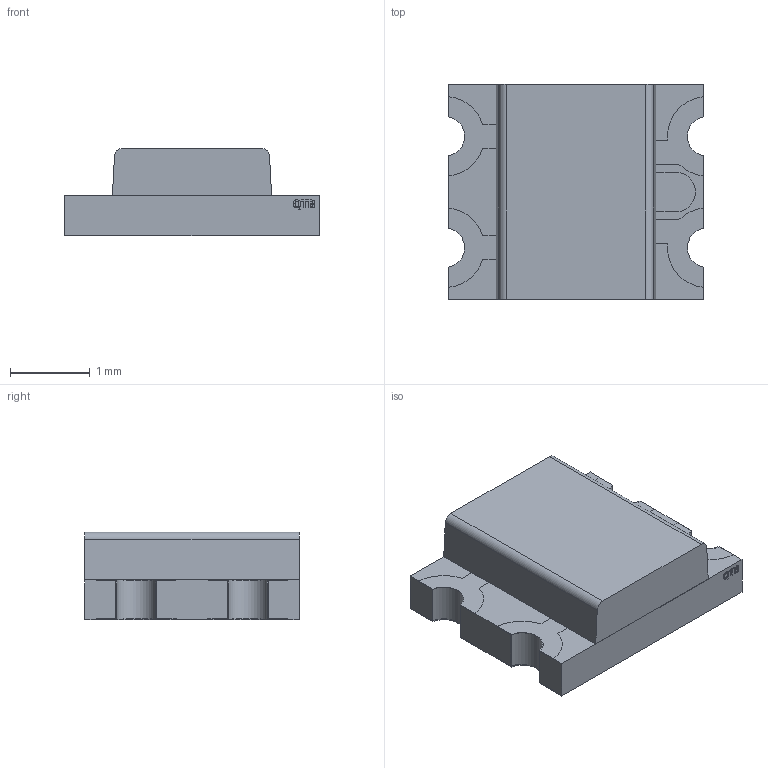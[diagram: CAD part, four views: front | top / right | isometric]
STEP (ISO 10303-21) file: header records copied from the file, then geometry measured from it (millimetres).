
FILE_DESCRIPTION(/* description */ (''),/* implementation_level */ '2;1');
FILE_NAME(/* name */ '5fab0ca4fb24ef1079061ac7',/* time_stamp */ '2020-11-10T21:56:52+00:00',/* author */ (''),/* organization */ (''),/* preprocessor_version */ 'ST-DEVELOPER v16.7',/* originating_system */ $,/* authorisation */ $);
FILE_SCHEMA (('AUTOMOTIVE_DESIGN {1 0 10303 214 3 1 1}'));
Length unit declared in the file: metre
Products named in the file (8): QBLP650 (Bi-Color); Resin; Top Pad 2b; Substrate; Bottom Pad 1b; Polarity Mark; Top Pad 2a; Top Pad 1b
Assembly tree (7 placements, depth 2):
  QBLP650 (Bi-Color)
    Resin
    Top Pad 2b
    Substrate
    Bottom Pad 1b
    Polarity Mark
    Top Pad 2a
    Top Pad 1b
Bounding box: 3.2 x 2.7 x 1.1 mm (x, y, z)
Volume: 7.3 mm3; surface area: 49.3 mm2
Topology: 7 solids, 7 shells, 194 faces, 519 edges, 346 vertices
Faces by surface type: plane 133, cylinder 32, bspline 29
Entity records: 6311 total; most frequent: CARTESIAN_POINT 1386, ORIENTED_EDGE 1038, DIRECTION 871, EDGE_CURVE 519, LINE 397, VECTOR 397, VERTEX_POINT 346, AXIS2_PLACEMENT_3D 237
